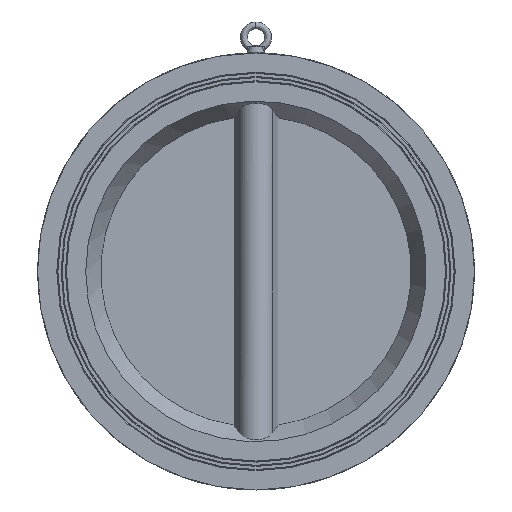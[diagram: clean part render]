
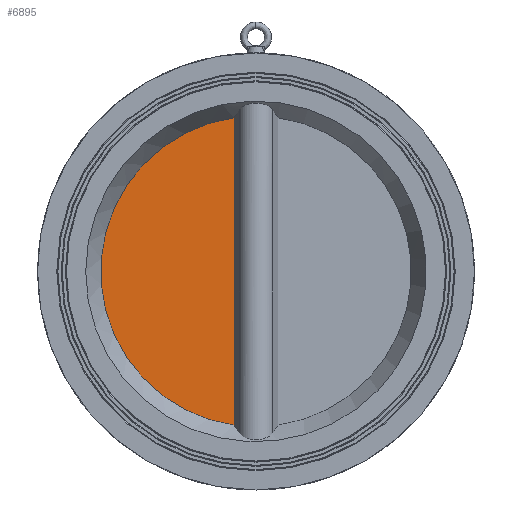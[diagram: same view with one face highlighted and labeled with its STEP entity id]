
A CAD part, front view. The second image highlights one B-rep face of the part: STEP entity #6895.
In plain terms, the highlighted planar face has unit normal (0, -1, 0).
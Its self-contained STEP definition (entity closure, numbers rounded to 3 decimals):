
#15 = DIRECTION ( 'NONE',  ( 0., -1., 0. ) ) ;
#174 = CARTESIAN_POINT ( 'NONE',  ( -27., 5., 217.329 ) ) ;
#469 = DIRECTION ( 'NONE',  ( 0., -1., 0. ) ) ;
#623 = CARTESIAN_POINT ( 'NONE',  ( 0., 5., 0. ) ) ;
#1129 = EDGE_CURVE ( 'NONE', #5837, #3322, #1275, .T. ) ;
#1275 = LINE ( 'NONE', #4658, #7511 ) ;
#1913 = DIRECTION ( 'NONE',  ( 0., 0., -1. ) ) ;
#2650 = ORIENTED_EDGE ( 'NONE', *, *, #6932, .T. ) ;
#2729 = AXIS2_PLACEMENT_3D ( 'NONE', #623, #15, #1913 ) ;
#2891 = PLANE ( 'NONE',  #3701 ) ;
#3322 = VERTEX_POINT ( 'NONE', #174 ) ;
#3701 = AXIS2_PLACEMENT_3D ( 'NONE', #5937, #469, #6541 ) ;
#3969 = EDGE_LOOP ( 'NONE', ( #2650, #7529 ) ) ;
#4344 = FACE_OUTER_BOUND ( 'NONE', #3969, .T. ) ;
#4658 = CARTESIAN_POINT ( 'NONE',  ( -27., 5., 217.329 ) ) ;
#5231 = DIRECTION ( 'NONE',  ( 0., 0., 1. ) ) ;
#5837 = VERTEX_POINT ( 'NONE', #6717 ) ;
#5937 = CARTESIAN_POINT ( 'NONE',  ( 0., 5., 0. ) ) ;
#6215 = CIRCLE ( 'NONE', #2729, 219. ) ;
#6541 = DIRECTION ( 'NONE',  ( 0., 0., -1. ) ) ;
#6717 = CARTESIAN_POINT ( 'NONE',  ( -27., 5., -217.329 ) ) ;
#6895 = ADVANCED_FACE ( 'NONE', ( #4344 ), #2891, .T. ) ;
#6932 = EDGE_CURVE ( 'NONE', #3322, #5837, #6215, .T. ) ;
#7511 = VECTOR ( 'NONE', #5231, 1000. ) ;
#7529 = ORIENTED_EDGE ( 'NONE', *, *, #1129, .T. ) ;
